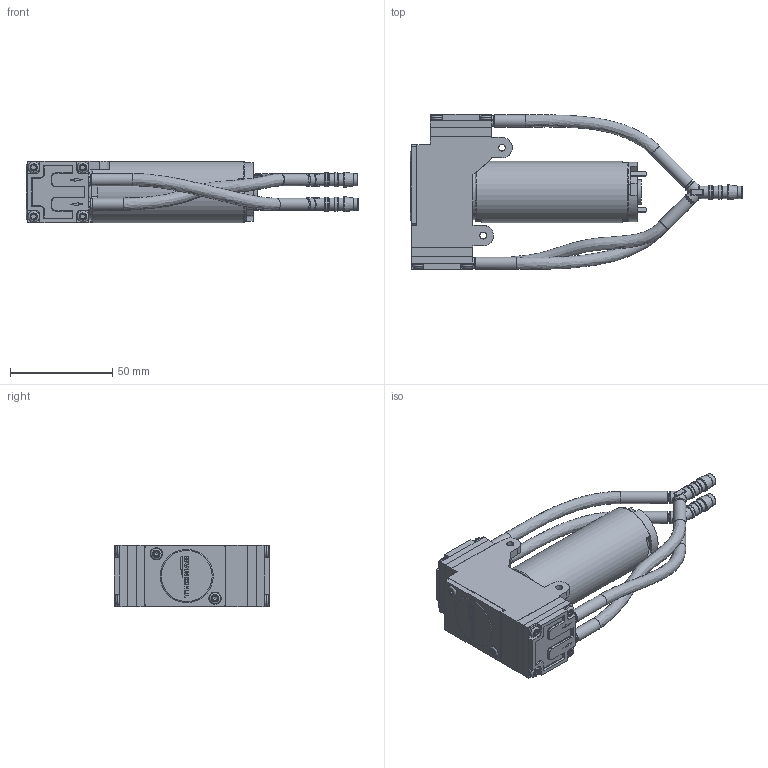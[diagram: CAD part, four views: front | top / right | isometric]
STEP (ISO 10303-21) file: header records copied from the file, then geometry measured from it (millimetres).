
FILE_DESCRIPTION (( 'STEP AP203' ), '1' );
FILE_NAME ('14200203-18.STEP', '2018-11-30T09:48:06', ( 'admin' ), ( 'Gardner Denver' ), 'SwSTEP 2.0', 'SolidWorks 2017', '' );
FILE_SCHEMA (( 'CONFIG_CONTROL_DESIGN' ));
Length unit declared in the file: metre
Products named in the file (1): 14200203-18
Bounding box: 162.36 x 75.81 x 30 mm (x, y, z)
Volume: 140613.5 mm3; surface area: 31016.4 mm2
Topology: 1 solids, 4 shells, 1179 faces, 3225 edges, 2115 vertices
Faces by surface type: plane 776, cylinder 245, bspline 57, torus 53, cone 48
Full cylindrical faces by diameter (mm): 1.5 x2, 3 x2, 3.3 x1, 4.2 x3, 5.55 x8, 5.6 x2, 6 x10, 6.1 x12, 6.8 x4, 12 x2, 12.245 x1, 27 x1, 30 x1
Entity records: 38357 total; most frequent: CARTESIAN_POINT 9496, ORIENTED_EDGE 6158, DIRECTION 5555, EDGE_CURVE 3079, LINE 2257, VECTOR 2257, VERTEX_POINT 2078, AXIS2_PLACEMENT_3D 1649
